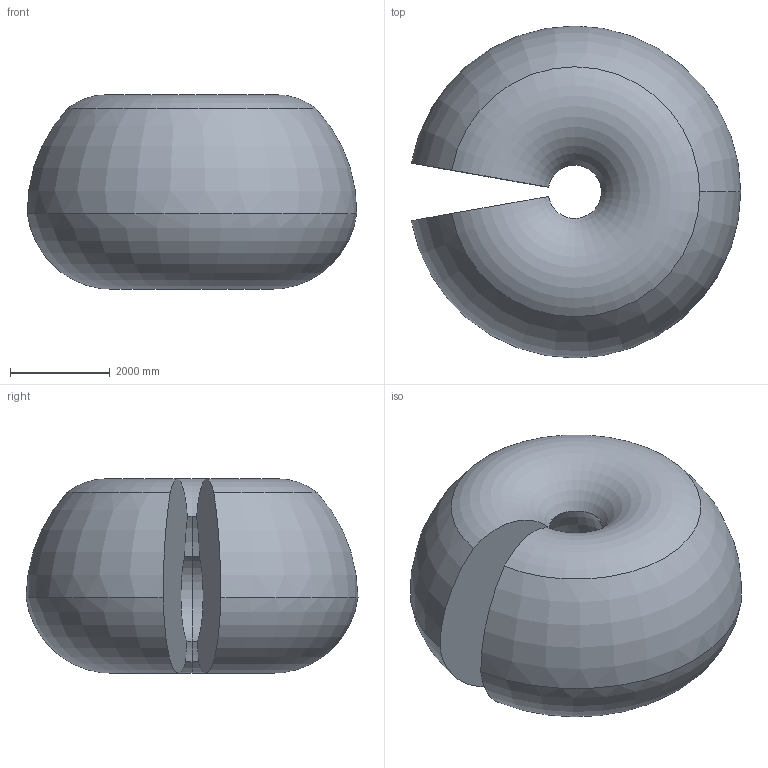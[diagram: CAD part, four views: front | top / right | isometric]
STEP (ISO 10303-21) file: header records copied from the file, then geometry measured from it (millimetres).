
FILE_DESCRIPTION (( 'STEP AP214' ), '1' );
FILE_NAME ('IRB77X0_All-330_OC_00_Working-space.STEP', '2024-02-09T13:47:33', ( '' ), ( '' ), 'SwSTEP 2.0', 'SolidWorks 2022', '' );
FILE_SCHEMA (( 'AUTOMOTIVE_DESIGN' ));
Length unit declared in the file: millimetre
Products named in the file (1): IRB77X0_All-330_OC_00_Working-space
Bounding box: 6596.2 x 6646.69 x 3895.16 mm (x, y, z)
Volume: 91345083453.5 mm3; surface area: 142493282.8 mm2
Topology: 1 solids, 1 shells, 13 faces, 29 edges, 18 vertices
Faces by surface type: torus 11, plane 2
Entity records: 414 total; most frequent: DIRECTION 86, CARTESIAN_POINT 61, ORIENTED_EDGE 58, AXIS2_PLACEMENT_3D 43, CIRCLE 29, EDGE_CURVE 29, VERTEX_POINT 18, EDGE_LOOP 13
